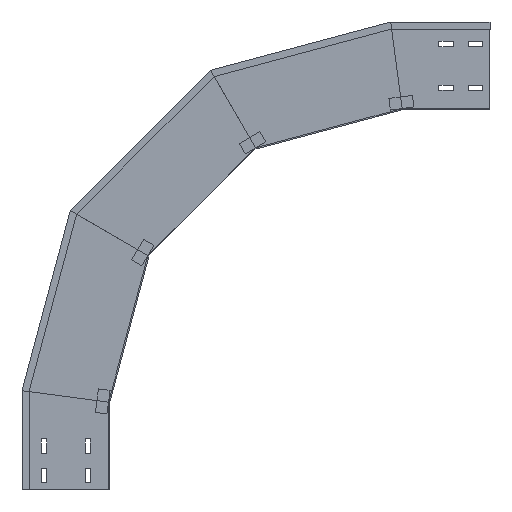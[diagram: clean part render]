
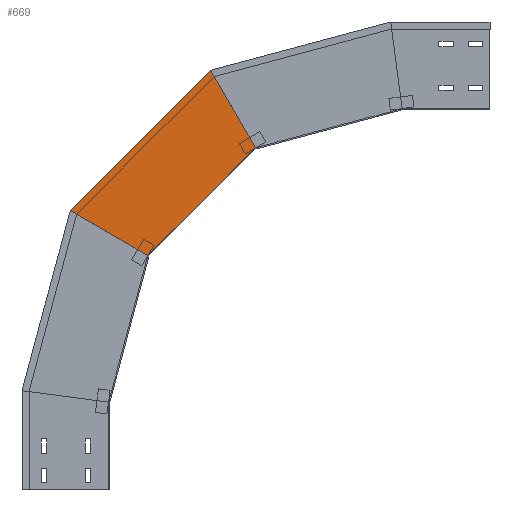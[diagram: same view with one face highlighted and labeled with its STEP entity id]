
A CAD part, left-side view. The second image highlights one B-rep face of the part: STEP entity #669.
In plain terms, the highlighted planar face has unit normal (-1, 0, 0) as drawn and (1, 0, 0) by its records, which use the part's own axes.
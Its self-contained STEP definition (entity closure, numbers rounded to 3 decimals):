
#80 = ORIENTED_EDGE ( 'NONE', *, *, #1249, .F. ) ;
#138 = VECTOR ( 'NONE', #1062, 1000. ) ;
#157 = CARTESIAN_POINT ( 'NONE',  ( 0., -35.701, 368.842 ) ) ;
#160 = FACE_OUTER_BOUND ( 'NONE', #264, .T. ) ;
#170 = AXIS2_PLACEMENT_3D ( 'NONE', #1266, #1812, #2025 ) ;
#237 = EDGE_CURVE ( 'NONE', #550, #347, #1929, .T. ) ;
#238 = CARTESIAN_POINT ( 'NONE',  ( 0., -289.426, 515.33 ) ) ;
#264 = EDGE_LOOP ( 'NONE', ( #295, #1574, #2287, #80 ) ) ;
#295 = ORIENTED_EDGE ( 'NONE', *, *, #297, .T. ) ;
#297 = EDGE_CURVE ( 'NONE', #1820, #550, #333, .T. ) ;
#333 = LINE ( 'NONE', #1073, #138 ) ;
#347 = VERTEX_POINT ( 'NONE', #1032 ) ;
#388 = VERTEX_POINT ( 'NONE', #856 ) ;
#468 = DIRECTION ( 'NONE',  ( 0., -0.5, -0.866 ) ) ;
#550 = VERTEX_POINT ( 'NONE', #1792 ) ;
#669 = ADVANCED_FACE ( 'NONE', ( #160 ), #906, .T. ) ;
#856 = CARTESIAN_POINT ( 'NONE',  ( 0., -67.034, 400.175 ) ) ;
#901 = DIRECTION ( 'NONE',  ( 0., -0.707, 0.707 ) ) ;
#906 = PLANE ( 'NONE',  #170 ) ;
#1032 = CARTESIAN_POINT ( 'NONE',  ( 0., -250.175, 583.315 ) ) ;
#1062 = DIRECTION ( 'NONE',  ( 0., -0.707, 0.707 ) ) ;
#1073 = CARTESIAN_POINT ( 'NONE',  ( 0., 70.365, 474.908 ) ) ;
#1085 = VECTOR ( 'NONE', #468, 1000. ) ;
#1197 = EDGE_CURVE ( 'NONE', #388, #347, #2278, .T. ) ;
#1249 = EDGE_CURVE ( 'NONE', #1820, #388, #2293, .T. ) ;
#1266 = CARTESIAN_POINT ( 'NONE',  ( 0., -35.701, 368.842 ) ) ;
#1351 = VECTOR ( 'NONE', #901, 1000. ) ;
#1574 = ORIENTED_EDGE ( 'NONE', *, *, #237, .T. ) ;
#1792 = CARTESIAN_POINT ( 'NONE',  ( 0., -172.529, 717.802 ) ) ;
#1812 = DIRECTION ( 'NONE',  ( 1., 0., 0. ) ) ;
#1820 = VERTEX_POINT ( 'NONE', #1936 ) ;
#1929 = LINE ( 'NONE', #238, #1085 ) ;
#1936 = CARTESIAN_POINT ( 'NONE',  ( 0., 67.452, 477.821 ) ) ;
#2025 = DIRECTION ( 'NONE',  ( 0., 0., -1. ) ) ;
#2064 = DIRECTION ( 'NONE',  ( 0., -0.866, -0.5 ) ) ;
#2105 = VECTOR ( 'NONE', #2064, 1000. ) ;
#2240 = CARTESIAN_POINT ( 'NONE',  ( 0., -129.979, 363.834 ) ) ;
#2278 = LINE ( 'NONE', #157, #1351 ) ;
#2287 = ORIENTED_EDGE ( 'NONE', *, *, #1197, .F. ) ;
#2293 = LINE ( 'NONE', #2240, #2105 ) ;
